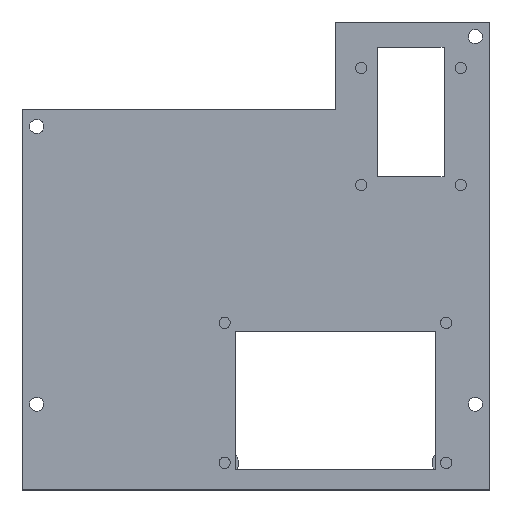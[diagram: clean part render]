
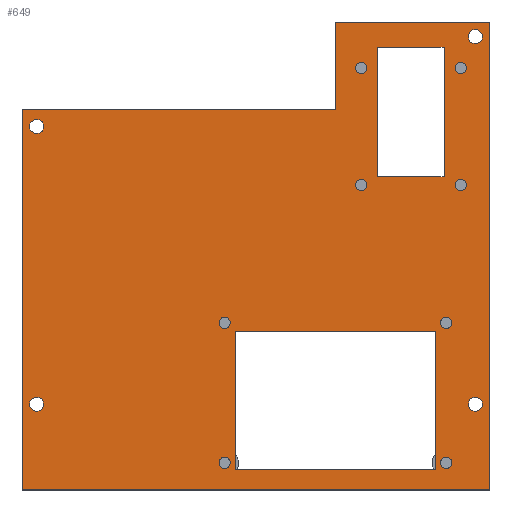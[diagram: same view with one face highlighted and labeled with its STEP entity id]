
A CAD part, top view. The second image highlights one B-rep face of the part: STEP entity #649.
In plain terms, the highlighted planar face has unit normal (0, 0, 1).
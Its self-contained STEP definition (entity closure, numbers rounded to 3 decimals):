
#24 = VERTEX_POINT('',#25);
#25 = CARTESIAN_POINT('',(68.,65.,40.8));
#31 = EDGE_CURVE('',#24,#32,#34,.T.);
#32 = VERTEX_POINT('',#33);
#33 = CARTESIAN_POINT('',(180.,65.,40.8));
#34 = LINE('',#35,#36);
#35 = CARTESIAN_POINT('',(68.,65.,40.8));
#36 = VECTOR('',#37,1.);
#37 = DIRECTION('',(1.,0.,0.));
#64 = VERTEX_POINT('',#65);
#65 = CARTESIAN_POINT('',(68.,156.,40.8));
#71 = EDGE_CURVE('',#64,#24,#72,.T.);
#72 = LINE('',#73,#74);
#73 = CARTESIAN_POINT('',(68.,156.,40.8));
#74 = VECTOR('',#75,1.);
#75 = DIRECTION('',(0.,-1.,0.));
#93 = EDGE_CURVE('',#32,#94,#96,.T.);
#94 = VERTEX_POINT('',#95);
#95 = CARTESIAN_POINT('',(180.,177.,40.8));
#96 = LINE('',#97,#98);
#97 = CARTESIAN_POINT('',(180.,65.,40.8));
#98 = VECTOR('',#99,1.);
#99 = DIRECTION('',(0.,1.,0.));
#649 = ADVANCED_FACE('',(#650,#677,#688,#699,#710,#744,#755,#766,#777,
    #788,#799,#810,#821,#855,#866),#877,.T.);
#650 = FACE_BOUND('',#651,.T.);
#651 = EDGE_LOOP('',(#652,#653,#654,#662,#670,#676));
#652 = ORIENTED_EDGE('',*,*,#31,.T.);
#653 = ORIENTED_EDGE('',*,*,#93,.T.);
#654 = ORIENTED_EDGE('',*,*,#655,.T.);
#655 = EDGE_CURVE('',#94,#656,#658,.T.);
#656 = VERTEX_POINT('',#657);
#657 = CARTESIAN_POINT('',(143.,177.,40.8));
#658 = LINE('',#659,#660);
#659 = CARTESIAN_POINT('',(180.,177.,40.8));
#660 = VECTOR('',#661,1.);
#661 = DIRECTION('',(-1.,0.,0.));
#662 = ORIENTED_EDGE('',*,*,#663,.T.);
#663 = EDGE_CURVE('',#656,#664,#666,.T.);
#664 = VERTEX_POINT('',#665);
#665 = CARTESIAN_POINT('',(143.,156.,40.8));
#666 = LINE('',#667,#668);
#667 = CARTESIAN_POINT('',(143.,177.,40.8));
#668 = VECTOR('',#669,1.);
#669 = DIRECTION('',(0.,-1.,0.));
#670 = ORIENTED_EDGE('',*,*,#671,.T.);
#671 = EDGE_CURVE('',#664,#64,#672,.T.);
#672 = LINE('',#673,#674);
#673 = CARTESIAN_POINT('',(143.,156.,40.8));
#674 = VECTOR('',#675,1.);
#675 = DIRECTION('',(-1.,0.,0.));
#676 = ORIENTED_EDGE('',*,*,#71,.T.);
#677 = FACE_BOUND('',#678,.T.);
#678 = EDGE_LOOP('',(#679));
#679 = ORIENTED_EDGE('',*,*,#680,.F.);
#680 = EDGE_CURVE('',#681,#681,#683,.T.);
#681 = VERTEX_POINT('',#682);
#682 = CARTESIAN_POINT('',(73.2,85.5,40.8));
#683 = CIRCLE('',#684,1.7);
#684 = AXIS2_PLACEMENT_3D('',#685,#686,#687);
#685 = CARTESIAN_POINT('',(71.5,85.5,40.8));
#686 = DIRECTION('',(0.,0.,1.));
#687 = DIRECTION('',(1.,0.,-0.));
#688 = FACE_BOUND('',#689,.T.);
#689 = EDGE_LOOP('',(#690));
#690 = ORIENTED_EDGE('',*,*,#691,.F.);
#691 = EDGE_CURVE('',#692,#692,#694,.T.);
#692 = VERTEX_POINT('',#693);
#693 = CARTESIAN_POINT('',(117.85,71.5,40.8));
#694 = CIRCLE('',#695,1.35);
#695 = AXIS2_PLACEMENT_3D('',#696,#697,#698);
#696 = CARTESIAN_POINT('',(116.5,71.5,40.8));
#697 = DIRECTION('',(0.,0.,1.));
#698 = DIRECTION('',(1.,0.,-0.));
#699 = FACE_BOUND('',#700,.T.);
#700 = EDGE_LOOP('',(#701));
#701 = ORIENTED_EDGE('',*,*,#702,.F.);
#702 = EDGE_CURVE('',#703,#703,#705,.T.);
#703 = VERTEX_POINT('',#704);
#704 = CARTESIAN_POINT('',(117.85,105.,40.8));
#705 = CIRCLE('',#706,1.35);
#706 = AXIS2_PLACEMENT_3D('',#707,#708,#709);
#707 = CARTESIAN_POINT('',(116.5,105.,40.8));
#708 = DIRECTION('',(0.,0.,1.));
#709 = DIRECTION('',(1.,0.,-0.));
#710 = FACE_BOUND('',#711,.T.);
#711 = EDGE_LOOP('',(#712,#722,#730,#738));
#712 = ORIENTED_EDGE('',*,*,#713,.T.);
#713 = EDGE_CURVE('',#714,#716,#718,.T.);
#714 = VERTEX_POINT('',#715);
#715 = CARTESIAN_POINT('',(167.,70.,40.8));
#716 = VERTEX_POINT('',#717);
#717 = CARTESIAN_POINT('',(119.,70.,40.8));
#718 = LINE('',#719,#720);
#719 = CARTESIAN_POINT('',(123.258,70.,40.8));
#720 = VECTOR('',#721,1.);
#721 = DIRECTION('',(-1.,-0.,0.));
#722 = ORIENTED_EDGE('',*,*,#723,.T.);
#723 = EDGE_CURVE('',#716,#724,#726,.T.);
#724 = VERTEX_POINT('',#725);
#725 = CARTESIAN_POINT('',(119.,103.,40.8));
#726 = LINE('',#727,#728);
#727 = CARTESIAN_POINT('',(119.,93.742,40.8));
#728 = VECTOR('',#729,1.);
#729 = DIRECTION('',(-0.,1.,0.));
#730 = ORIENTED_EDGE('',*,*,#731,.F.);
#731 = EDGE_CURVE('',#732,#724,#734,.T.);
#732 = VERTEX_POINT('',#733);
#733 = CARTESIAN_POINT('',(167.,103.,40.8));
#734 = LINE('',#735,#736);
#735 = CARTESIAN_POINT('',(123.258,103.,40.8));
#736 = VECTOR('',#737,1.);
#737 = DIRECTION('',(-1.,-0.,0.));
#738 = ORIENTED_EDGE('',*,*,#739,.F.);
#739 = EDGE_CURVE('',#714,#732,#740,.T.);
#740 = LINE('',#741,#742);
#741 = CARTESIAN_POINT('',(167.,93.742,40.8));
#742 = VECTOR('',#743,1.);
#743 = DIRECTION('',(-0.,1.,0.));
#744 = FACE_BOUND('',#745,.T.);
#745 = EDGE_LOOP('',(#746));
#746 = ORIENTED_EDGE('',*,*,#747,.F.);
#747 = EDGE_CURVE('',#748,#748,#750,.T.);
#748 = VERTEX_POINT('',#749);
#749 = CARTESIAN_POINT('',(170.85,71.5,40.8));
#750 = CIRCLE('',#751,1.35);
#751 = AXIS2_PLACEMENT_3D('',#752,#753,#754);
#752 = CARTESIAN_POINT('',(169.5,71.5,40.8));
#753 = DIRECTION('',(0.,0.,1.));
#754 = DIRECTION('',(1.,0.,-0.));
#755 = FACE_BOUND('',#756,.T.);
#756 = EDGE_LOOP('',(#757));
#757 = ORIENTED_EDGE('',*,*,#758,.F.);
#758 = EDGE_CURVE('',#759,#759,#761,.T.);
#759 = VERTEX_POINT('',#760);
#760 = CARTESIAN_POINT('',(178.2,85.5,40.8));
#761 = CIRCLE('',#762,1.7);
#762 = AXIS2_PLACEMENT_3D('',#763,#764,#765);
#763 = CARTESIAN_POINT('',(176.5,85.5,40.8));
#764 = DIRECTION('',(0.,0.,1.));
#765 = DIRECTION('',(1.,0.,-0.));
#766 = FACE_BOUND('',#767,.T.);
#767 = EDGE_LOOP('',(#768));
#768 = ORIENTED_EDGE('',*,*,#769,.F.);
#769 = EDGE_CURVE('',#770,#770,#772,.T.);
#770 = VERTEX_POINT('',#771);
#771 = CARTESIAN_POINT('',(170.85,105.,40.8));
#772 = CIRCLE('',#773,1.35);
#773 = AXIS2_PLACEMENT_3D('',#774,#775,#776);
#774 = CARTESIAN_POINT('',(169.5,105.,40.8));
#775 = DIRECTION('',(0.,0.,1.));
#776 = DIRECTION('',(1.,0.,-0.));
#777 = FACE_BOUND('',#778,.T.);
#778 = EDGE_LOOP('',(#779));
#779 = ORIENTED_EDGE('',*,*,#780,.F.);
#780 = EDGE_CURVE('',#781,#781,#783,.T.);
#781 = VERTEX_POINT('',#782);
#782 = CARTESIAN_POINT('',(73.2,152.,40.8));
#783 = CIRCLE('',#784,1.7);
#784 = AXIS2_PLACEMENT_3D('',#785,#786,#787);
#785 = CARTESIAN_POINT('',(71.5,152.,40.8));
#786 = DIRECTION('',(0.,0.,1.));
#787 = DIRECTION('',(1.,0.,-0.));
#788 = FACE_BOUND('',#789,.T.);
#789 = EDGE_LOOP('',(#790));
#790 = ORIENTED_EDGE('',*,*,#791,.F.);
#791 = EDGE_CURVE('',#792,#792,#794,.T.);
#792 = VERTEX_POINT('',#793);
#793 = CARTESIAN_POINT('',(150.55,138.,40.8));
#794 = CIRCLE('',#795,1.35);
#795 = AXIS2_PLACEMENT_3D('',#796,#797,#798);
#796 = CARTESIAN_POINT('',(149.2,138.,40.8));
#797 = DIRECTION('',(0.,0.,1.));
#798 = DIRECTION('',(1.,0.,-0.));
#799 = FACE_BOUND('',#800,.T.);
#800 = EDGE_LOOP('',(#801));
#801 = ORIENTED_EDGE('',*,*,#802,.F.);
#802 = EDGE_CURVE('',#803,#803,#805,.T.);
#803 = VERTEX_POINT('',#804);
#804 = CARTESIAN_POINT('',(174.35,138.,40.8));
#805 = CIRCLE('',#806,1.35);
#806 = AXIS2_PLACEMENT_3D('',#807,#808,#809);
#807 = CARTESIAN_POINT('',(173.,138.,40.8));
#808 = DIRECTION('',(0.,0.,1.));
#809 = DIRECTION('',(1.,0.,-0.));
#810 = FACE_BOUND('',#811,.T.);
#811 = EDGE_LOOP('',(#812));
#812 = ORIENTED_EDGE('',*,*,#813,.F.);
#813 = EDGE_CURVE('',#814,#814,#816,.T.);
#814 = VERTEX_POINT('',#815);
#815 = CARTESIAN_POINT('',(150.55,166.,40.8));
#816 = CIRCLE('',#817,1.35);
#817 = AXIS2_PLACEMENT_3D('',#818,#819,#820);
#818 = CARTESIAN_POINT('',(149.2,166.,40.8));
#819 = DIRECTION('',(0.,0.,1.));
#820 = DIRECTION('',(1.,0.,-0.));
#821 = FACE_BOUND('',#822,.T.);
#822 = EDGE_LOOP('',(#823,#833,#841,#849));
#823 = ORIENTED_EDGE('',*,*,#824,.T.);
#824 = EDGE_CURVE('',#825,#827,#829,.T.);
#825 = VERTEX_POINT('',#826);
#826 = CARTESIAN_POINT('',(169.,140.,40.8));
#827 = VERTEX_POINT('',#828);
#828 = CARTESIAN_POINT('',(153.,140.,40.8));
#829 = LINE('',#830,#831);
#830 = CARTESIAN_POINT('',(140.258,140.,40.8));
#831 = VECTOR('',#832,1.);
#832 = DIRECTION('',(-1.,-0.,0.));
#833 = ORIENTED_EDGE('',*,*,#834,.T.);
#834 = EDGE_CURVE('',#827,#835,#837,.T.);
#835 = VERTEX_POINT('',#836);
#836 = CARTESIAN_POINT('',(153.,171.,40.8));
#837 = LINE('',#838,#839);
#838 = CARTESIAN_POINT('',(153.,128.742,40.8));
#839 = VECTOR('',#840,1.);
#840 = DIRECTION('',(-0.,1.,0.));
#841 = ORIENTED_EDGE('',*,*,#842,.F.);
#842 = EDGE_CURVE('',#843,#835,#845,.T.);
#843 = VERTEX_POINT('',#844);
#844 = CARTESIAN_POINT('',(169.,171.,40.8));
#845 = LINE('',#846,#847);
#846 = CARTESIAN_POINT('',(140.258,171.,40.8));
#847 = VECTOR('',#848,1.);
#848 = DIRECTION('',(-1.,-0.,0.));
#849 = ORIENTED_EDGE('',*,*,#850,.F.);
#850 = EDGE_CURVE('',#825,#843,#851,.T.);
#851 = LINE('',#852,#853);
#852 = CARTESIAN_POINT('',(169.,128.742,40.8));
#853 = VECTOR('',#854,1.);
#854 = DIRECTION('',(-0.,1.,0.));
#855 = FACE_BOUND('',#856,.T.);
#856 = EDGE_LOOP('',(#857));
#857 = ORIENTED_EDGE('',*,*,#858,.F.);
#858 = EDGE_CURVE('',#859,#859,#861,.T.);
#859 = VERTEX_POINT('',#860);
#860 = CARTESIAN_POINT('',(174.35,166.,40.8));
#861 = CIRCLE('',#862,1.35);
#862 = AXIS2_PLACEMENT_3D('',#863,#864,#865);
#863 = CARTESIAN_POINT('',(173.,166.,40.8));
#864 = DIRECTION('',(0.,0.,1.));
#865 = DIRECTION('',(1.,0.,-0.));
#866 = FACE_BOUND('',#867,.T.);
#867 = EDGE_LOOP('',(#868));
#868 = ORIENTED_EDGE('',*,*,#869,.F.);
#869 = EDGE_CURVE('',#870,#870,#872,.T.);
#870 = VERTEX_POINT('',#871);
#871 = CARTESIAN_POINT('',(178.2,173.5,40.8));
#872 = CIRCLE('',#873,1.7);
#873 = AXIS2_PLACEMENT_3D('',#874,#875,#876);
#874 = CARTESIAN_POINT('',(176.5,173.5,40.8));
#875 = DIRECTION('',(0.,0.,1.));
#876 = DIRECTION('',(1.,0.,-0.));
#877 = PLANE('',#878);
#878 = AXIS2_PLACEMENT_3D('',#879,#880,#881);
#879 = CARTESIAN_POINT('',(127.516,117.484,40.8));
#880 = DIRECTION('',(0.,0.,1.));
#881 = DIRECTION('',(1.,0.,-0.));
